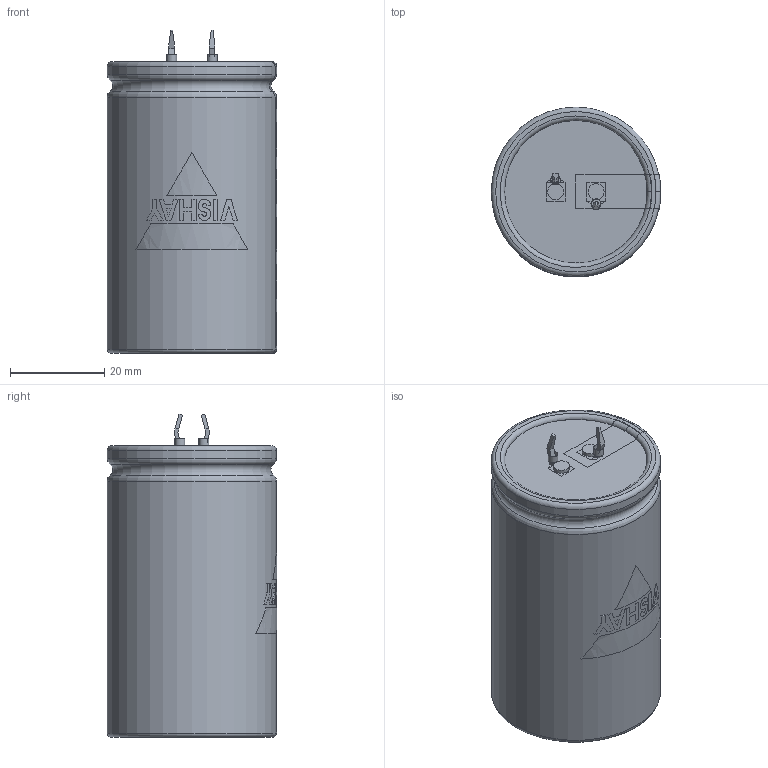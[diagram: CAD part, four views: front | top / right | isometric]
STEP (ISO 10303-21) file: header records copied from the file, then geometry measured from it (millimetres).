
FILE_DESCRIPTION(('FreeCAD Model'),'2;1');
FILE_NAME( 'C:/Users/Gebruiker/Documents/FreeCAD/SnapIn_35x60_2pin_5.8.step', '2020-11-12T20:47:11',('Author'),(''), 'Open CASCADE STEP processor 6.8','FreeCAD','Unknown');
FILE_SCHEMA(('AUTOMOTIVE_DESIGN_CC2 { 1 2 10303 214 -1 1 5 4 }'));
Length unit declared in the file: millimetre
Products named in the file (9): ASSEMBLY; TerminalMin; TerminalPlus; PCBHoles; Disc; BottomInsulation; Can3D; InkMinusBar; InkLogo
Assembly tree (8 placements, depth 2):
  ASSEMBLY
    TerminalMin
    TerminalPlus
    PCBHoles
    Disc
    BottomInsulation
    Can3D
    InkMinusBar
    InkLogo
Bounding box: 36.05 x 36.05 x 68.75 mm (x, y, z)
Volume: 71224.2 mm3; surface area: 20999.8 mm2
Topology: 16 solids, 16 shells, 196 faces, 487 edges, 319 vertices
Faces by surface type: plane 149, cylinder 29, torus 18
Full cylindrical faces by diameter (mm): 2 x2, 2.1 x2, 3.4 x2, 28.8 x2, 30.3 x1, 36 x2
Entity records: 20111 total; most frequent: CARTESIAN_POINT 9183, DIRECTION 1720, ORIENTED_EDGE 974, PCURVE 974, DEFINITIONAL_REPRESENTATION 974, LINE 961, VECTOR 961, EDGE_CURVE 487
